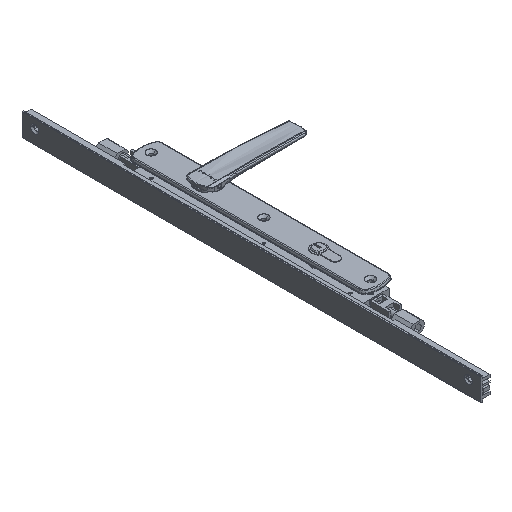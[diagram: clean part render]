
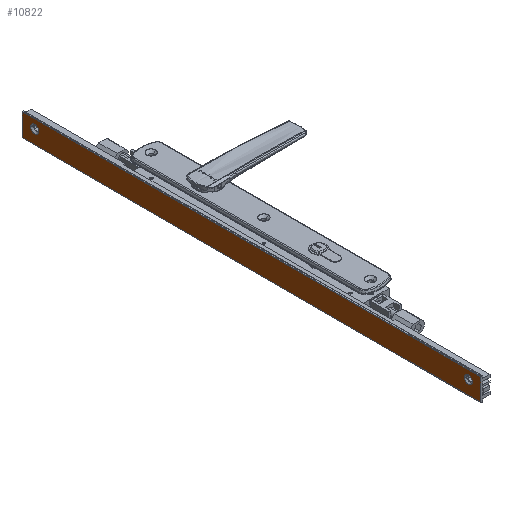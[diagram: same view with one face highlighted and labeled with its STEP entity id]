
A CAD part, isometric view. The second image highlights one B-rep face of the part: STEP entity #10822.
In plain terms, the highlighted planar face has unit normal (-1, 0, 0) as drawn and (0, 1, 0) by its records, which use the part's own axes.
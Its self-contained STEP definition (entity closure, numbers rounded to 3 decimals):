
#111 = CARTESIAN_POINT ( 'NONE',  ( 20.8, 12.4, 544. ) ) ;
#319 = VERTEX_POINT ( 'NONE', #7847 ) ;
#433 = EDGE_CURVE ( 'NONE', #31104, #7401, #30538, .T. ) ;
#612 = DIRECTION ( 'NONE',  ( -1., 0., 0. ) ) ;
#641 = FACE_BOUND ( 'NONE', #4549, .T. ) ;
#697 = CIRCLE ( 'NONE', #13628, 4.889 ) ;
#856 = CARTESIAN_POINT ( 'NONE',  ( 22., 12.4, 0. ) ) ;
#1088 = DIRECTION ( 'NONE',  ( 0., 1., 0. ) ) ;
#1221 = CARTESIAN_POINT ( 'NONE',  ( 11.8, 12.4, 524.111 ) ) ;
#1944 = VERTEX_POINT ( 'NONE', #22163 ) ;
#3160 = LINE ( 'NONE', #111, #3851 ) ;
#3326 = LINE ( 'NONE', #8033, #12965 ) ;
#3851 = VECTOR ( 'NONE', #612, 1000. ) ;
#4165 = EDGE_CURVE ( 'NONE', #20181, #5623, #5917, .T. ) ;
#4549 = EDGE_LOOP ( 'NONE', ( #26110, #10537 ) ) ;
#5623 = VERTEX_POINT ( 'NONE', #18009 ) ;
#5917 = LINE ( 'NONE', #856, #25545 ) ;
#6620 = ORIENTED_EDGE ( 'NONE', *, *, #7709, .F. ) ;
#7037 = AXIS2_PLACEMENT_3D ( 'NONE', #23428, #21041, #18874 ) ;
#7401 = VERTEX_POINT ( 'NONE', #1221 ) ;
#7709 = EDGE_CURVE ( 'NONE', #1944, #23517, #18317, .T. ) ;
#7847 = CARTESIAN_POINT ( 'NONE',  ( -4.4, 12.4, 0. ) ) ;
#7872 = LINE ( 'NONE', #20856, #12439 ) ;
#8033 = CARTESIAN_POINT ( 'NONE',  ( 20.8, 12.4, 0. ) ) ;
#8062 = PLANE ( 'NONE',  #28482 ) ;
#10537 = ORIENTED_EDGE ( 'NONE', *, *, #28395, .F. ) ;
#10769 = DIRECTION ( 'NONE',  ( 0., -1., 0. ) ) ;
#10822 = ADVANCED_FACE ( 'NONE', ( #15988, #641, #23270 ), #8062, .F. ) ;
#11140 = DIRECTION ( 'NONE',  ( 0., 0., 1. ) ) ;
#12439 = VECTOR ( 'NONE', #16126, 1000. ) ;
#12965 = VECTOR ( 'NONE', #18172, 1000. ) ;
#13628 = AXIS2_PLACEMENT_3D ( 'NONE', #16641, #21725, #26833 ) ;
#14805 = CARTESIAN_POINT ( 'NONE',  ( 11.8, 12.4, 15. ) ) ;
#15278 = VERTEX_POINT ( 'NONE', #26917 ) ;
#15988 = FACE_BOUND ( 'NONE', #20486, .T. ) ;
#16126 = DIRECTION ( 'NONE',  ( 0., 0., 1. ) ) ;
#16641 = CARTESIAN_POINT ( 'NONE',  ( 11.8, 12.4, 529. ) ) ;
#16684 = AXIS2_PLACEMENT_3D ( 'NONE', #14805, #25145, #27030 ) ;
#16933 = CARTESIAN_POINT ( 'NONE',  ( 11.8, 12.4, 529. ) ) ;
#18009 = CARTESIAN_POINT ( 'NONE',  ( 22., 12.4, 544. ) ) ;
#18172 = DIRECTION ( 'NONE',  ( -1., 0., 0. ) ) ;
#18317 = CIRCLE ( 'NONE', #16684, 4.89 ) ;
#18545 = CARTESIAN_POINT ( 'NONE',  ( 20.8, 12.4, 544. ) ) ;
#18874 = DIRECTION ( 'NONE',  ( 0., 0., 1. ) ) ;
#18896 = EDGE_LOOP ( 'NONE', ( #22458, #24686, #26075, #21747 ) ) ;
#20181 = VERTEX_POINT ( 'NONE', #29319 ) ;
#20476 = CARTESIAN_POINT ( 'NONE',  ( 11.8, 12.4, 10.111 ) ) ;
#20486 = EDGE_LOOP ( 'NONE', ( #6620, #32120 ) ) ;
#20856 = CARTESIAN_POINT ( 'NONE',  ( -4.4, 12.4, 0. ) ) ;
#21041 = DIRECTION ( 'NONE',  ( 0., 1., 0. ) ) ;
#21725 = DIRECTION ( 'NONE',  ( 0., 1., 0. ) ) ;
#21747 = ORIENTED_EDGE ( 'NONE', *, *, #4165, .F. ) ;
#22163 = CARTESIAN_POINT ( 'NONE',  ( 11.8, 12.4, 19.89 ) ) ;
#22458 = ORIENTED_EDGE ( 'NONE', *, *, #32950, .T. ) ;
#23270 = FACE_OUTER_BOUND ( 'NONE', #18896, .T. ) ;
#23428 = CARTESIAN_POINT ( 'NONE',  ( 11.8, 12.4, 15. ) ) ;
#23517 = VERTEX_POINT ( 'NONE', #20476 ) ;
#24374 = EDGE_CURVE ( 'NONE', #23517, #1944, #31901, .T. ) ;
#24399 = DIRECTION ( 'NONE',  ( 0., 0., 1. ) ) ;
#24686 = ORIENTED_EDGE ( 'NONE', *, *, #33022, .T. ) ;
#25145 = DIRECTION ( 'NONE',  ( 0., 1., 0. ) ) ;
#25428 = CARTESIAN_POINT ( 'NONE',  ( 11.8, 12.4, 533.889 ) ) ;
#25545 = VECTOR ( 'NONE', #11140, 1000. ) ;
#26075 = ORIENTED_EDGE ( 'NONE', *, *, #33047, .F. ) ;
#26110 = ORIENTED_EDGE ( 'NONE', *, *, #433, .F. ) ;
#26508 = DIRECTION ( 'NONE',  ( 1., 0., 0. ) ) ;
#26833 = DIRECTION ( 'NONE',  ( 0., 0., 1. ) ) ;
#26917 = CARTESIAN_POINT ( 'NONE',  ( -4.4, 12.4, 544. ) ) ;
#27030 = DIRECTION ( 'NONE',  ( 0., 0., 1. ) ) ;
#27838 = AXIS2_PLACEMENT_3D ( 'NONE', #16933, #1088, #24399 ) ;
#28395 = EDGE_CURVE ( 'NONE', #7401, #31104, #697, .T. ) ;
#28482 = AXIS2_PLACEMENT_3D ( 'NONE', #18545, #10769, #26508 ) ;
#29319 = CARTESIAN_POINT ( 'NONE',  ( 22., 12.4, 0. ) ) ;
#30538 = CIRCLE ( 'NONE', #27838, 4.889 ) ;
#31104 = VERTEX_POINT ( 'NONE', #25428 ) ;
#31901 = CIRCLE ( 'NONE', #7037, 4.89 ) ;
#32120 = ORIENTED_EDGE ( 'NONE', *, *, #24374, .F. ) ;
#32950 = EDGE_CURVE ( 'NONE', #20181, #319, #3326, .T. ) ;
#33022 = EDGE_CURVE ( 'NONE', #319, #15278, #7872, .T. ) ;
#33047 = EDGE_CURVE ( 'NONE', #5623, #15278, #3160, .T. ) ;
